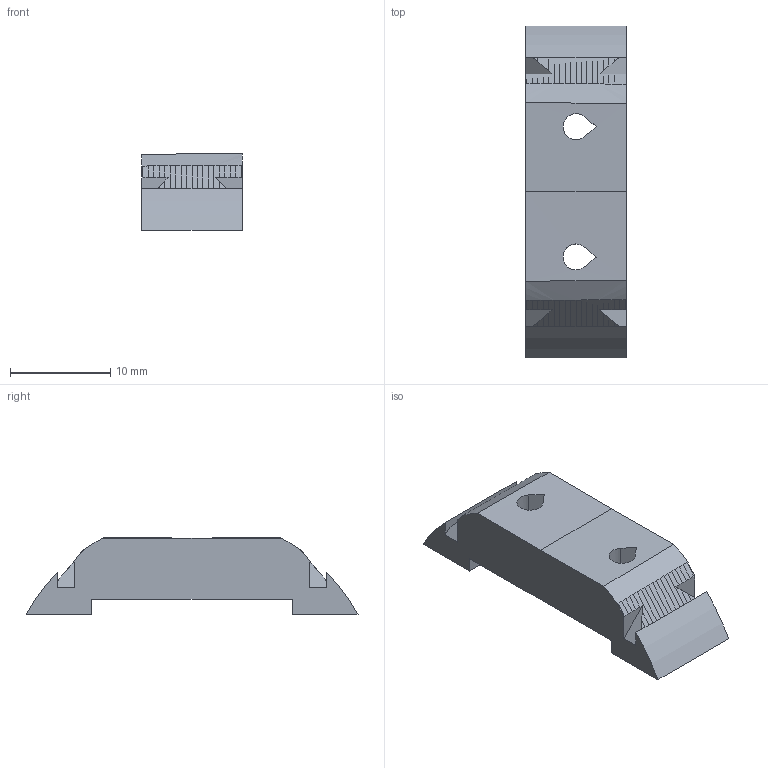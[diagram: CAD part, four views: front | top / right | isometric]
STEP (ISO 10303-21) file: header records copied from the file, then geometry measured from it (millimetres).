
FILE_DESCRIPTION(('SkyG Speed 90B - revision C6B-21 - 2026-10-16','NB2-wing-nut-bar-rear'),'2;1');
FILE_NAME('NB2-wing-nut-bar-rear_C6B-21','2026-10-16T11:47:25',('Author'),( 'Open CASCADE'),'Open CASCADE STEP processor 7.9','Open CASCADE 7.9' ,'Unknown');
FILE_SCHEMA(('AUTOMOTIVE_DESIGN { 1 0 10303 214 1 1 1 1 }'));
Length unit declared in the file: millimetre
Products named in the file (1): NB2-wing-nut-bar-rear C6B-21
Bounding box: 10 x 33.13 x 7.67 mm (x, y, z)
Volume: 1458.9 mm3; surface area: 1311.9 mm2
Topology: 1 solids, 1 shells, 95 faces, 273 edges, 182 vertices
Faces by surface type: bspline 54, plane 35, cylinder 6
Entity records: 8561 total; most frequent: CARTESIAN_POINT 4116, ORIENTED_EDGE 546, PCURVE 546, DEFINITIONAL_REPRESENTATION 546, DIRECTION 457, B_SPLINE_CURVE_WITH_KNOTS 448, LINE 351, VECTOR 351
